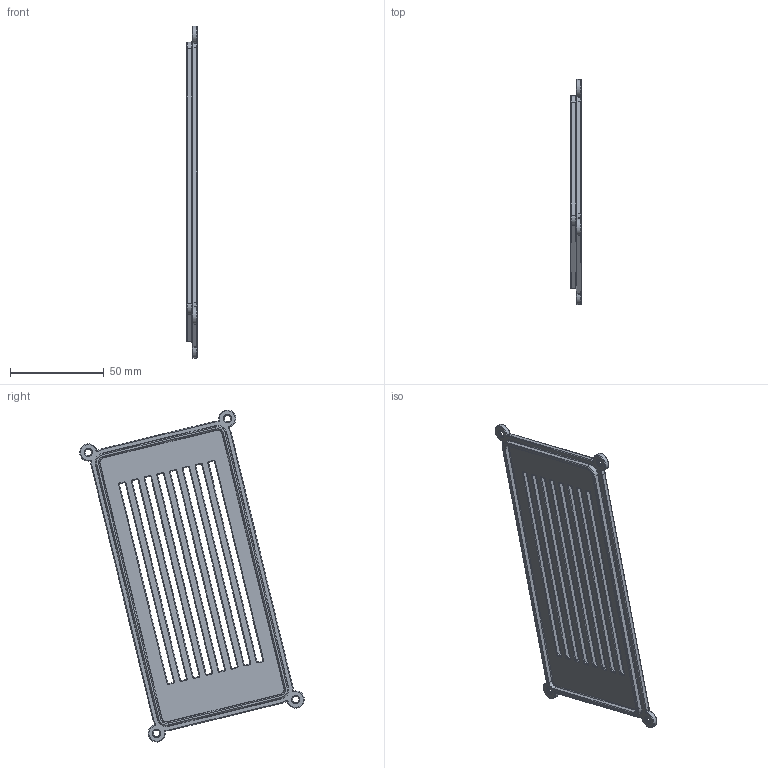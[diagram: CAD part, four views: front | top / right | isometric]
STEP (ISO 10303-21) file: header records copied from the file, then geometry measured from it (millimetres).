
FILE_DESCRIPTION(('Open CASCADE Model'),'2;1');
FILE_NAME('Open CASCADE Shape Model','2026-11-19T06:38:53',('Author'),( 'Open CASCADE'),'Open CASCADE STEP processor 8.0','Open CASCADE 8.0' ,'Unknown');
FILE_SCHEMA(('AUTOMOTIVE_DESIGN { 1 0 10303 214 1 1 1 1 }'));
Length unit declared in the file: millimetre
Products named in the file (1): Open CASCADE STEP translator 8.0 6
Bounding box: 5.8 x 119.99 x 177.35 mm (x, y, z)
Volume: 27836.9 mm3; surface area: 26556.2 mm2
Topology: 1 solids, 1 shells, 344 faces, 784 edges, 448 vertices
Faces by surface type: cylinder 148, torus 136, plane 52, bspline 8
Full cylindrical faces by diameter (mm): 3.55 x4, 6.35 x4
Entity records: 20178 total; most frequent: CARTESIAN_POINT 4577, DIRECTION 2982, ORIENTED_EDGE 1568, PCURVE 1568, DEFINITIONAL_REPRESENTATION 1568, LINE 1224, VECTOR 1224, AXIS2_PLACEMENT_3D 833
